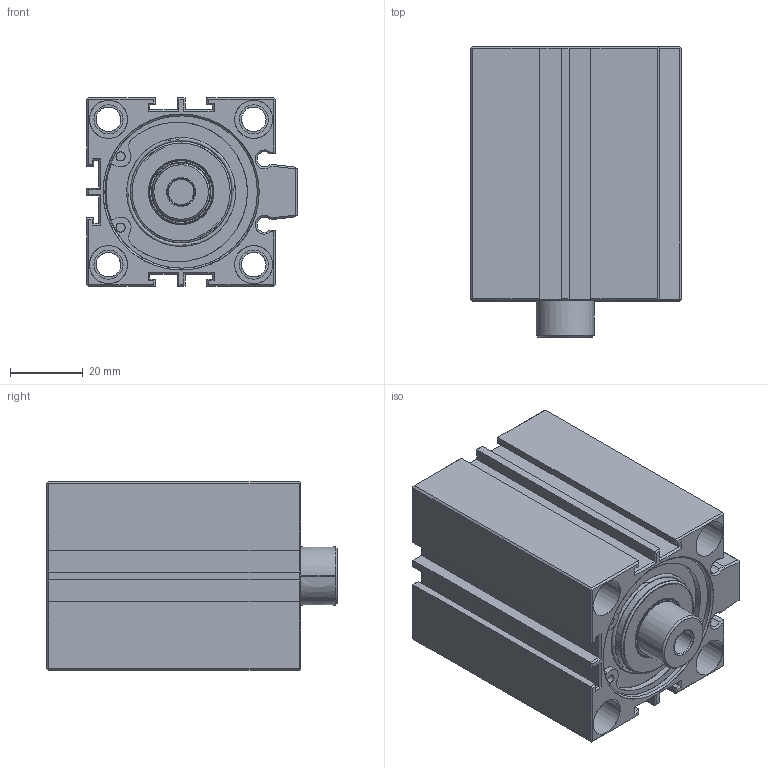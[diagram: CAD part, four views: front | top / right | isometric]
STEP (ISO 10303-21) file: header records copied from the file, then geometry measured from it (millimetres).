
FILE_DESCRIPTION((''),'2;1');
FILE_NAME('3D-NDFOCL40X5','2014-01-18T',('yfs-01'),('foxconn'),'PRO/ENGINEER BY PARAMETRIC TECHNOLOGY CORPORATION, 2007230','PRO/ENGINEER BY PARAMETRIC TECHNOLOGY CORPORATION, 2007230','');
FILE_SCHEMA(('CONFIG_CONTROL_DESIGN'));
Length unit declared in the file: millimetre
Products named in the file (1): 3D-NDFOCL40X5
Bounding box: 58 x 80 x 52 mm (x, y, z)
Surface area: 42778.8 mm2 (no closed solid volume)
Topology: 0 solids, 0 shells, 383 faces, 1808 edges, 1794 vertices
Faces by surface type: bspline 369, torus 14
Entity records: 42814 total; most frequent: CARTESIAN_POINT 22974, DIRECTION 3365, TRIMMED_CURVE 2967, VECTOR 2597, LINE 2597, DEFINITIONAL_REPRESENTATION 1780, PCURVE 1780, COMPOSITE_CURVE_SEGMENT 1780
